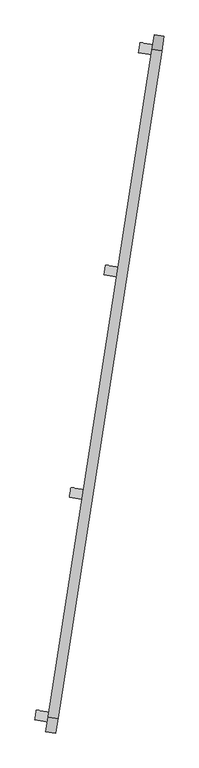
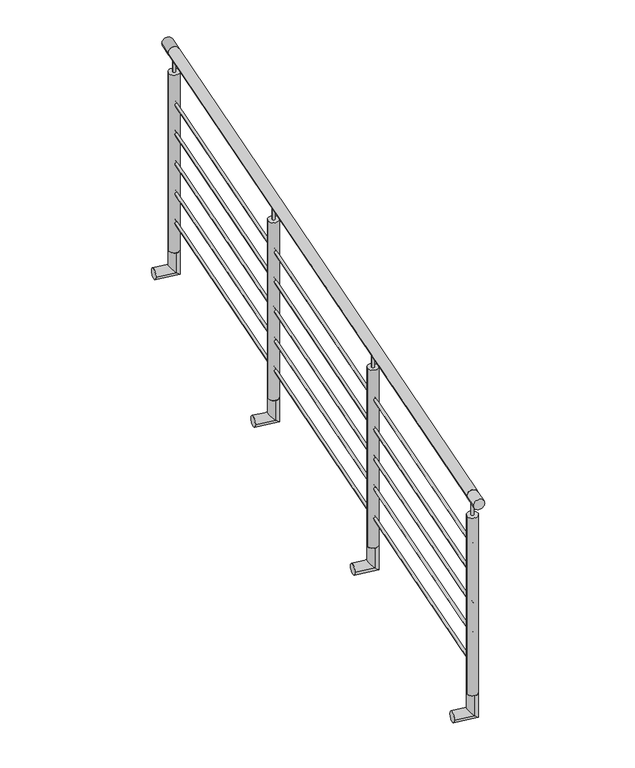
"""IFC4 building model written with IfcOpenShell, lengths in millimetres: railing geometry, Barandal acero inox - sobre ventana."""

from ifc_helpers import new_model, si_unit, point, frame, frame_2d, origin, origin_2d, place, context, project, spatial, circle_curve, ellipse_curve, trimmed, segment, composite_curve, outline, extrude, source, transform, mapped, element, save
from ifc_brep_helpers import plane_surface, cylinder_surface, advanced_brep


def railing_2f46b822(model_context):
    return source(origin(), model_context, "Body", "SolidModel", [
        extrude(outline(composite_curve([segment(trimmed(circle_curve(origin_2d(), 25.4), [point((25.4, 0.0))], [point((-25.4, 0.0))], False, "CARTESIAN"), True, "CONTINUOUS"), segment(trimmed(circle_curve(origin_2d(), 25.4), [point((-25.4, 0.0))], [point((25.4, 0.0))], False, "CARTESIAN"), True, "CONTINUOUS")], self_intersect=False)), frame((-23346.3091717, -74517.0784613, 7400.0), z_axis=(0.15400987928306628, 0.9880693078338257, 0.0), x_axis=(0.9880693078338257, -0.15400987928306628, 0.0)), (0.0, 0.0, 1.0), 3429.9999727),
        extrude(outline(composite_curve([segment(trimmed(circle_curve(origin_2d(), 6.35), [point((6.35, 0.0))], [point((-6.35, 0.0))], False, "CARTESIAN"), True, "CONTINUOUS"), segment(trimmed(circle_curve(origin_2d(), 6.35), [point((-6.35, 0.0))], [point((6.35, 0.0))], False, "CARTESIAN"), True, "CONTINUOUS")], self_intersect=False)), frame((-23346.3091717, -74517.0784613, 7150.0), z_axis=(0.15400987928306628, 0.9880693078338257, 0.0), x_axis=(0.9880693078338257, -0.15400987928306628, 0.0)), (0.0, 0.0, 1.0), 3429.9999727),
        extrude(outline(composite_curve([segment(trimmed(circle_curve(origin_2d(), 6.35), [point((6.35, 0.0))], [point((-6.35, 0.0))], False, "CARTESIAN"), True, "CONTINUOUS"), segment(trimmed(circle_curve(origin_2d(), 6.35), [point((-6.35, 0.0))], [point((6.35, 0.0))], False, "CARTESIAN"), True, "CONTINUOUS")], self_intersect=False)), frame((-23346.3091717, -74517.0784613, 7000.0), z_axis=(0.15400987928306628, 0.9880693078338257, 0.0), x_axis=(0.9880693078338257, -0.15400987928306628, 0.0)), (0.0, 0.0, 1.0), 3429.9999727),
        extrude(outline(composite_curve([segment(trimmed(circle_curve(origin_2d(), 6.35), [point((6.35, 0.0))], [point((-6.35, 0.0))], False, "CARTESIAN"), True, "CONTINUOUS"), segment(trimmed(circle_curve(origin_2d(), 6.35), [point((-6.35, 0.0))], [point((6.35, 0.0))], False, "CARTESIAN"), True, "CONTINUOUS")], self_intersect=False)), frame((-23346.3091717, -74517.0784613, 6850.0), z_axis=(0.15400987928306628, 0.9880693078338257, 0.0), x_axis=(0.9880693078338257, -0.15400987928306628, 0.0)), (0.0, 0.0, 1.0), 3429.9999727),
        extrude(outline(composite_curve([segment(trimmed(circle_curve(origin_2d(), 6.35), [point((6.35, 0.0))], [point((-6.35, 0.0))], False, "CARTESIAN"), True, "CONTINUOUS"), segment(trimmed(circle_curve(origin_2d(), 6.35), [point((-6.35, 0.0))], [point((6.35, 0.0))], False, "CARTESIAN"), True, "CONTINUOUS")], self_intersect=False)), frame((-23346.3091717, -74517.0784613, 6700.0), z_axis=(0.15400987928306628, 0.9880693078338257, 0.0), x_axis=(0.9880693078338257, -0.15400987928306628, 0.0)), (0.0, 0.0, 1.0), 3429.9999727),
        extrude(outline(composite_curve([segment(trimmed(circle_curve(origin_2d(), 6.35), [point((6.35, 0.0))], [point((-6.35, 0.0))], False, "CARTESIAN"), True, "CONTINUOUS"), segment(trimmed(circle_curve(origin_2d(), 6.35), [point((-6.35, 0.0))], [point((6.35, 0.0))], False, "CARTESIAN"), True, "CONTINUOUS")], self_intersect=False)), frame((-23346.3091717, -74517.0784613, 6550.0), z_axis=(0.15400987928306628, 0.9880693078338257, 0.0), x_axis=(0.9880693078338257, -0.15400987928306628, 0.0)), (0.0, 0.0, 1.0), 3429.9999727),
        advanced_brep(
        [(-22998.0517681, -72282.7902891, 6400.0), (-22990.2280663, -72232.5963683, 6400.0), (-22990.2280663, -72232.5963683, 6300.0), (-22998.0517681, -72282.7902891, 6300.0), (-23086.9780058, -72268.9294, 6300.0), (-23079.154304, -72218.7354791, 6300.0)],
        [
            (0, 1, circle_curve(frame((-22994.1399172, -72257.6933287, 6400.0), z_axis=(0.0, 0.0, 1.0), x_axis=(0.15400987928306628, 0.9880693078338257, 0.0)), 25.4)),
            (1, 0, circle_curve(frame((-22994.1399172, -72257.6933287, 6400.0), z_axis=(0.0, 0.0, 1.0), x_axis=(0.15400987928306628, 0.9880693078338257, 0.0)), 25.4)),
            (1, 2),
            (2, 3, ellipse_curve(frame((-22994.1399172, -72257.6933287, 6300.0), z_axis=(0.6986705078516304, -0.1089014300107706, 0.7071067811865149), x_axis=(-0.6986705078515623, 0.10890143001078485, 0.7071067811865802)), 35.9210245, 25.4)),
            (3, 0),
            (3, 2, ellipse_curve(frame((-22994.1399172, -72257.6933287, 6300.0), z_axis=(0.6986705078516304, -0.1089014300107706, 0.7071067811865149), x_axis=(-0.6986705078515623, 0.10890143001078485, 0.7071067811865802)), 35.9210245, 25.4)),
            (4, 5, circle_curve(frame((-23083.0661549, -72243.8324395, 6300.0), z_axis=(-0.9880693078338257, 0.15400987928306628, 0.0), x_axis=(0.15400987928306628, 0.9880693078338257, 0.0)), 25.4)),
            (5, 4, circle_curve(frame((-23083.0661549, -72243.8324395, 6300.0), z_axis=(-0.9880693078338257, 0.15400987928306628, 0.0), x_axis=(0.15400987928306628, 0.9880693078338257, 0.0)), 25.4)),
            (2, 5),
            (4, 3),
        ],
        [
            plane_surface(frame((-22994.1399172, -72257.6933287, 6400.0), z_axis=(0.0, 0.0, 1.0), x_axis=(0.15400987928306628, 0.9880693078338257, 0.0))),
            cylinder_surface(frame((-22994.1399172, -72257.6933287, 6400.0), z_axis=(0.0, 0.0, 1.0), x_axis=(0.15400987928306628, 0.9880693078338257, 0.0)), 25.4),
            plane_surface(frame((-23083.0661549, -72243.8324395, 6300.0), z_axis=(-0.9880693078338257, 0.15400987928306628, 0.0), x_axis=(0.15400987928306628, 0.9880693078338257, 0.0))),
            cylinder_surface(frame((-22994.1399172, -72257.6933287, 6300.0), z_axis=(0.9880693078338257, -0.15400987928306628, 0.0), x_axis=(0.15400987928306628, 0.9880693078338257, 0.0)), 25.4),
        ],
        [
            (0, [[1, 2]]),
            (1, [[3, 4, 5, -2]]),
            (1, [[-5, 6, -3, -1]]),
            (2, [[7, 8]]),
            (3, [[9, -7, 10, -4]]),
            (3, [[-10, -8, -9, -6]]),
        ],
    ),
        extrude(outline(composite_curve([segment(trimmed(circle_curve(frame_2d((-22994.1399172, -72257.6933287)), 6.35), [point((-23000.4141573, -72256.7153659))], [point((-22987.8656771, -72258.6712914))], False, "CARTESIAN"), True, "CONTINUOUS"), segment(trimmed(circle_curve(frame_2d((-22994.1399172, -72257.6933287)), 6.35), [point((-22987.8656771, -72258.6712914))], [point((-23000.4141573, -72256.7153659))], False, "CARTESIAN"), True, "CONTINUOUS")], self_intersect=False)), frame((0.0, 0.0, 7299.6), z_axis=(0.0, 0.0, 1.0), x_axis=(1.0, 0.0, 0.0)), (0.0, 0.0, 1.0), 75.0),
        extrude(outline(composite_curve([segment(trimmed(circle_curve(frame_2d((-22994.1399172, -72257.6933287)), 25.4), [point((-23019.2368776, -72253.7814777))], [point((-22969.0429568, -72261.6051796))], False, "CARTESIAN"), True, "CONTINUOUS"), segment(trimmed(circle_curve(frame_2d((-22994.1399172, -72257.6933287)), 25.4), [point((-22969.0429568, -72261.6051796))], [point((-23019.2368776, -72253.7814777))], False, "CARTESIAN"), True, "CONTINUOUS")], self_intersect=False)), frame((0.0, 0.0, 6400.0), z_axis=(0.0, 0.0, 1.0), x_axis=(1.0, 0.0, 0.0)), (0.0, 0.0, 1.0), 899.6),
        advanced_brep(
        [(-23174.1363954, -73412.4828554, 6400.0), (-23166.3126935, -73362.2889346, 6400.0), (-23166.3126935, -73362.2889346, 6300.0), (-23174.1363954, -73412.4828554, 6300.0), (-23263.0626331, -73398.6219663, 6300.0), (-23255.2389312, -73348.4280454, 6300.0)],
        [
            (0, 1, circle_curve(frame((-23170.2245444, -73387.385895, 6400.0), z_axis=(0.0, 0.0, 1.0), x_axis=(0.15400987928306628, 0.9880693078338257, 0.0)), 25.4)),
            (1, 0, circle_curve(frame((-23170.2245444, -73387.385895, 6400.0), z_axis=(0.0, 0.0, 1.0), x_axis=(0.15400987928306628, 0.9880693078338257, 0.0)), 25.4)),
            (1, 2),
            (2, 3, ellipse_curve(frame((-23170.2245444, -73387.385895, 6300.0), z_axis=(0.6986705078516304, -0.1089014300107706, 0.7071067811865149), x_axis=(-0.6986705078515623, 0.10890143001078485, 0.7071067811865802)), 35.9210245, 25.4)),
            (3, 0),
            (3, 2, ellipse_curve(frame((-23170.2245444, -73387.385895, 6300.0), z_axis=(0.6986705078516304, -0.1089014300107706, 0.7071067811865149), x_axis=(-0.6986705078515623, 0.10890143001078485, 0.7071067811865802)), 35.9210245, 25.4)),
            (4, 5, circle_curve(frame((-23259.1507821, -73373.5250058, 6300.0), z_axis=(-0.9880693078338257, 0.15400987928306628, 0.0), x_axis=(0.15400987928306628, 0.9880693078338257, 0.0)), 25.4)),
            (5, 4, circle_curve(frame((-23259.1507821, -73373.5250058, 6300.0), z_axis=(-0.9880693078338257, 0.15400987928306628, 0.0), x_axis=(0.15400987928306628, 0.9880693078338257, 0.0)), 25.4)),
            (2, 5),
            (4, 3),
        ],
        [
            plane_surface(frame((-23170.2245444, -73387.385895, 6400.0), z_axis=(0.0, 0.0, 1.0), x_axis=(0.15400987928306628, 0.9880693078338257, 0.0))),
            cylinder_surface(frame((-23170.2245444, -73387.385895, 6400.0), z_axis=(0.0, 0.0, 1.0), x_axis=(0.15400987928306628, 0.9880693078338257, 0.0)), 25.4),
            plane_surface(frame((-23259.1507821, -73373.5250058, 6300.0), z_axis=(-0.9880693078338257, 0.15400987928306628, 0.0), x_axis=(0.15400987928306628, 0.9880693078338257, 0.0))),
            cylinder_surface(frame((-23170.2245444, -73387.385895, 6300.0), z_axis=(0.9880693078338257, -0.15400987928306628, 0.0), x_axis=(0.15400987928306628, 0.9880693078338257, 0.0)), 25.4),
        ],
        [
            (0, [[1, 2]]),
            (1, [[3, 4, 5, -2]]),
            (1, [[-5, 6, -3, -1]]),
            (2, [[7, 8]]),
            (3, [[9, -7, 10, -4]]),
            (3, [[-10, -8, -9, -6]]),
        ],
    ),
        extrude(outline(composite_curve([segment(trimmed(circle_curve(frame_2d((-23170.2245444, -73387.385895)), 6.35), [point((-23176.4987845, -73386.4079322))], [point((-23163.9503043, -73388.3638577))], False, "CARTESIAN"), True, "CONTINUOUS"), segment(trimmed(circle_curve(frame_2d((-23170.2245444, -73387.385895)), 6.35), [point((-23163.9503043, -73388.3638577))], [point((-23176.4987845, -73386.4079322))], False, "CARTESIAN"), True, "CONTINUOUS")], self_intersect=False)), frame((0.0, 0.0, 7299.6), z_axis=(0.0, 0.0, 1.0), x_axis=(1.0, 0.0, 0.0)), (0.0, 0.0, 1.0), 75.0),
        extrude(outline(composite_curve([segment(trimmed(circle_curve(frame_2d((-23170.2245444, -73387.385895)), 25.4), [point((-23195.3215049, -73383.474044))], [point((-23145.127584, -73391.2977459))], False, "CARTESIAN"), True, "CONTINUOUS"), segment(trimmed(circle_curve(frame_2d((-23170.2245444, -73387.385895)), 25.4), [point((-23145.127584, -73391.2977459))], [point((-23195.3215049, -73383.474044))], False, "CARTESIAN"), True, "CONTINUOUS")], self_intersect=False)), frame((0.0, 0.0, 6400.0), z_axis=(0.0, 0.0, 1.0), x_axis=(1.0, 0.0, 0.0)), (0.0, 0.0, 1.0), 899.6),
        advanced_brep(
        [(-22821.9671409, -71153.0977228, 6400.0), (-22814.143439, -71102.903802, 6400.0), (-22814.143439, -71102.903802, 6300.0), (-22821.9671409, -71153.0977228, 6300.0), (-22910.8933786, -71139.2368337, 6300.0), (-22903.0696767, -71089.0429128, 6300.0)],
        [
            (0, 1, circle_curve(frame((-22818.05529, -71128.0007624, 6400.0), z_axis=(0.0, 0.0, 1.0), x_axis=(0.15400987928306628, 0.9880693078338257, 0.0)), 25.4)),
            (1, 0, circle_curve(frame((-22818.05529, -71128.0007624, 6400.0), z_axis=(0.0, 0.0, 1.0), x_axis=(0.15400987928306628, 0.9880693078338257, 0.0)), 25.4)),
            (1, 2),
            (2, 3, ellipse_curve(frame((-22818.05529, -71128.0007624, 6300.0), z_axis=(0.6986705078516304, -0.1089014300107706, 0.7071067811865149), x_axis=(-0.6986705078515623, 0.10890143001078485, 0.7071067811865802)), 35.9210245, 25.4)),
            (3, 0),
            (3, 2, ellipse_curve(frame((-22818.05529, -71128.0007624, 6300.0), z_axis=(0.6986705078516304, -0.1089014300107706, 0.7071067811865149), x_axis=(-0.6986705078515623, 0.10890143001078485, 0.7071067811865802)), 35.9210245, 25.4)),
            (4, 5, circle_curve(frame((-22906.9815277, -71114.1398733, 6300.0), z_axis=(-0.9880693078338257, 0.15400987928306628, 0.0), x_axis=(0.15400987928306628, 0.9880693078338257, 0.0)), 25.4)),
            (5, 4, circle_curve(frame((-22906.9815277, -71114.1398733, 6300.0), z_axis=(-0.9880693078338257, 0.15400987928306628, 0.0), x_axis=(0.15400987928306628, 0.9880693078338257, 0.0)), 25.4)),
            (2, 5),
            (4, 3),
        ],
        [
            plane_surface(frame((-22818.05529, -71128.0007624, 6400.0), z_axis=(0.0, 0.0, 1.0), x_axis=(0.15400987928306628, 0.9880693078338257, 0.0))),
            cylinder_surface(frame((-22818.05529, -71128.0007624, 6400.0), z_axis=(0.0, 0.0, 1.0), x_axis=(0.15400987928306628, 0.9880693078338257, 0.0)), 25.4),
            plane_surface(frame((-22906.9815277, -71114.1398733, 6300.0), z_axis=(-0.9880693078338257, 0.15400987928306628, 0.0), x_axis=(0.15400987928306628, 0.9880693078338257, 0.0))),
            cylinder_surface(frame((-22818.05529, -71128.0007624, 6300.0), z_axis=(0.9880693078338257, -0.15400987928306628, 0.0), x_axis=(0.15400987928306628, 0.9880693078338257, 0.0)), 25.4),
        ],
        [
            (0, [[1, 2]]),
            (1, [[3, 4, 5, -2]]),
            (1, [[-5, 6, -3, -1]]),
            (2, [[7, 8]]),
            (3, [[9, -7, 10, -4]]),
            (3, [[-10, -8, -9, -6]]),
        ],
    ),
        extrude(outline(composite_curve([segment(trimmed(circle_curve(frame_2d((0.0, 25.4000001)), 25.4), [point((0.0, 50.8000001))], [point((0.0, 0.0))], False, "CARTESIAN"), True, "CONTINUOUS"), segment(trimmed(circle_curve(frame_2d((0.0, 25.4000001)), 25.4), [point((0.0, 0.0))], [point((0.0, 50.8000001))], False, "CARTESIAN"), True, "CONTINUOUS")], self_intersect=False)), frame((-22792.9583295, -71131.9126133, 7400.0), z_axis=(0.15400987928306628, 0.9880693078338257, 0.0), x_axis=(0.0, 0.0, -1.0)), (0.0, 0.0, 1.0), 75.0),
        extrude(outline(composite_curve([segment(trimmed(circle_curve(frame_2d((-22818.05529, -71128.0007624)), 6.35), [point((-22824.3295301, -71127.0227997))], [point((-22811.7810499, -71128.9787251))], False, "CARTESIAN"), True, "CONTINUOUS"), segment(trimmed(circle_curve(frame_2d((-22818.05529, -71128.0007624)), 6.35), [point((-22811.7810499, -71128.9787251))], [point((-22824.3295301, -71127.0227997))], False, "CARTESIAN"), True, "CONTINUOUS")], self_intersect=False)), frame((0.0, 0.0, 7299.6), z_axis=(0.0, 0.0, 1.0), x_axis=(1.0, 0.0, 0.0)), (0.0, 0.0, 1.0), 75.0),
        extrude(outline(composite_curve([segment(trimmed(circle_curve(frame_2d((-22818.05529, -71128.0007624)), 25.4), [point((-22843.1522504, -71124.0889115))], [point((-22792.9583295, -71131.9126133))], False, "CARTESIAN"), True, "CONTINUOUS"), segment(trimmed(circle_curve(frame_2d((-22818.05529, -71128.0007624)), 25.4), [point((-22792.9583295, -71131.9126133))], [point((-22843.1522504, -71124.0889115))], False, "CARTESIAN"), True, "CONTINUOUS")], self_intersect=False)), frame((0.0, 0.0, 6400.0), z_axis=(0.0, 0.0, 1.0), x_axis=(1.0, 0.0, 0.0)), (0.0, 0.0, 1.0), 899.6),
        advanced_brep(
        [(-23350.2210226, -74542.1754217, 6400.0), (-23342.3973208, -74491.9815008, 6400.0), (-23342.3973208, -74491.9815008, 6300.0), (-23350.2210226, -74542.1754217, 6300.0), (-23439.1472603, -74528.3145325, 6300.0), (-23431.3235585, -74478.1206117, 6300.0)],
        [
            (0, 1, circle_curve(frame((-23346.3091717, -74517.0784613, 6400.0), z_axis=(0.0, 0.0, 1.0), x_axis=(0.15400987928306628, 0.9880693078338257, 0.0)), 25.4)),
            (1, 0, circle_curve(frame((-23346.3091717, -74517.0784613, 6400.0), z_axis=(0.0, 0.0, 1.0), x_axis=(0.15400987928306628, 0.9880693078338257, 0.0)), 25.4)),
            (1, 2),
            (2, 3, ellipse_curve(frame((-23346.3091717, -74517.0784613, 6300.0), z_axis=(0.6986705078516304, -0.1089014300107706, 0.7071067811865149), x_axis=(-0.6986705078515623, 0.10890143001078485, 0.7071067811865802)), 35.9210245, 25.4)),
            (3, 0),
            (3, 2, ellipse_curve(frame((-23346.3091717, -74517.0784613, 6300.0), z_axis=(0.6986705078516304, -0.1089014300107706, 0.7071067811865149), x_axis=(-0.6986705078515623, 0.10890143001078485, 0.7071067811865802)), 35.9210245, 25.4)),
            (4, 5, circle_curve(frame((-23435.2354094, -74503.2175721, 6300.0), z_axis=(-0.9880693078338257, 0.15400987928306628, 0.0), x_axis=(0.15400987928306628, 0.9880693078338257, 0.0)), 25.4)),
            (5, 4, circle_curve(frame((-23435.2354094, -74503.2175721, 6300.0), z_axis=(-0.9880693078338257, 0.15400987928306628, 0.0), x_axis=(0.15400987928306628, 0.9880693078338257, 0.0)), 25.4)),
            (2, 5),
            (4, 3),
        ],
        [
            plane_surface(frame((-23346.3091717, -74517.0784613, 6400.0), z_axis=(0.0, 0.0, 1.0), x_axis=(0.15400987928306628, 0.9880693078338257, 0.0))),
            cylinder_surface(frame((-23346.3091717, -74517.0784613, 6400.0), z_axis=(0.0, 0.0, 1.0), x_axis=(0.15400987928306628, 0.9880693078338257, 0.0)), 25.4),
            plane_surface(frame((-23435.2354094, -74503.2175721, 6300.0), z_axis=(-0.9880693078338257, 0.15400987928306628, 0.0), x_axis=(0.15400987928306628, 0.9880693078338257, 0.0))),
            cylinder_surface(frame((-23346.3091717, -74517.0784613, 6300.0), z_axis=(0.9880693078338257, -0.15400987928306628, 0.0), x_axis=(0.15400987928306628, 0.9880693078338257, 0.0)), 25.4),
        ],
        [
            (0, [[1, 2]]),
            (1, [[3, 4, 5, -2]]),
            (1, [[-5, 6, -3, -1]]),
            (2, [[7, 8]]),
            (3, [[9, -7, 10, -4]]),
            (3, [[-10, -8, -9, -6]]),
        ],
    ),
        extrude(outline(composite_curve([segment(trimmed(circle_curve(frame_2d((0.0, 25.4)), 25.4), [point((0.0, 50.8000001))], [point((0.0, 0.0))], False, "CARTESIAN"), True, "CONTINUOUS"), segment(trimmed(circle_curve(frame_2d((0.0, 25.4)), 25.4), [point((0.0, 0.0))], [point((0.0, 50.8000001))], False, "CARTESIAN"), True, "CONTINUOUS")], self_intersect=False)), frame((-23332.7629522, -74595.0955103, 7400.0), z_axis=(0.15400987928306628, 0.9880693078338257, 0.0), x_axis=(0.0, 0.0, -1.0)), (0.0, 0.0, 1.0), 75.0),
        extrude(outline(composite_curve([segment(trimmed(circle_curve(frame_2d((-23346.3091717, -74517.0784613)), 6.35), [point((-23352.5834118, -74516.1004985))], [point((-23340.0349316, -74518.056424))], False, "CARTESIAN"), True, "CONTINUOUS"), segment(trimmed(circle_curve(frame_2d((-23346.3091717, -74517.0784613)), 6.35), [point((-23340.0349316, -74518.056424))], [point((-23352.5834118, -74516.1004985))], False, "CARTESIAN"), True, "CONTINUOUS")], self_intersect=False)), frame((0.0, 0.0, 7299.6), z_axis=(0.0, 0.0, 1.0), x_axis=(1.0, 0.0, 0.0)), (0.0, 0.0, 1.0), 75.0),
        extrude(outline(composite_curve([segment(trimmed(circle_curve(frame_2d((-23346.3091717, -74517.0784613)), 25.4), [point((-23371.4061321, -74513.1666103))], [point((-23321.2122113, -74520.9903122))], False, "CARTESIAN"), True, "CONTINUOUS"), segment(trimmed(circle_curve(frame_2d((-23346.3091717, -74517.0784613)), 25.4), [point((-23321.2122113, -74520.9903122))], [point((-23371.4061321, -74513.1666103))], False, "CARTESIAN"), True, "CONTINUOUS")], self_intersect=False)), frame((0.0, 0.0, 6400.0), z_axis=(0.0, 0.0, 1.0), x_axis=(1.0, 0.0, 0.0)), (0.0, 0.0, 1.0), 899.6),
    ])


if __name__ == "__main__":
    model = new_model("IFC4")
    model_context = context("Model", 3, world=origin())
    ifc_project = project(units=[si_unit("LENGTHUNIT", "METRE", prefix="MILLI")], contexts=[model_context])
    site = spatial("IfcSite", under=ifc_project)
    building = spatial("IfcBuilding", under=site)
    placement = place(None, origin())
    railing_shape = railing_2f46b822(model_context)
    element("IfcRailing", 1, ObjectType="Barandal acero inox - sobre ventana", at=placement, inside=building, context=model_context, shape_type="MappedRepresentation", body=[
        mapped(railing_shape, transform((0.0, 0.0, 0.0), x_axis=(1.0, 0.0, 0.0), y_axis=(0.0, 1.0, 0.0), z_axis=(0.0, 0.0, 1.0))),
    ])
    save(model, "model.ifc")
